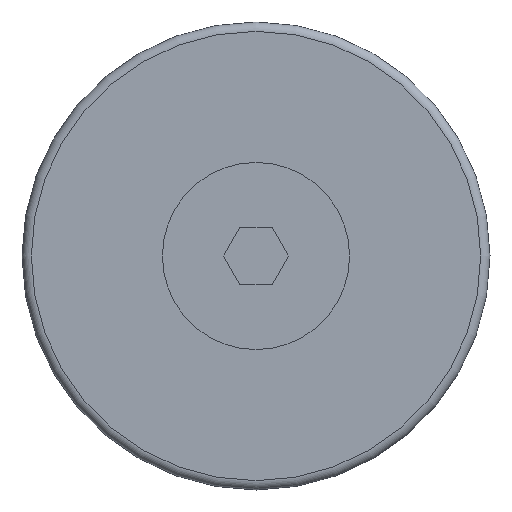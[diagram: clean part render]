
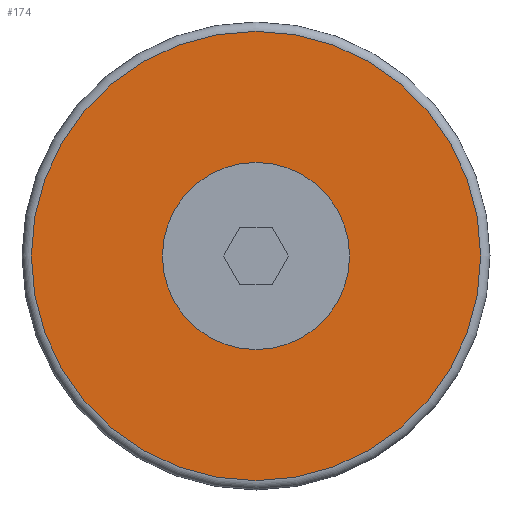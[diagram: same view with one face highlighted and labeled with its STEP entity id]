
A CAD part, front view. The second image highlights one B-rep face of the part: STEP entity #174.
In plain terms, the highlighted planar face has unit normal (0, -1, 0).
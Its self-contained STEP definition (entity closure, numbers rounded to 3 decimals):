
#174=ADVANCED_FACE('',(#233,#234),#235,.F.);
#233=FACE_OUTER_BOUND('',#357,.T.);
#234=FACE_BOUND('',#358,.T.);
#235=PLANE('',#359);
#357=EDGE_LOOP('',(#492));
#358=EDGE_LOOP('',(#493));
#359=AXIS2_PLACEMENT_3D('',#494,#495,#496);
#492=ORIENTED_EDGE('',*,*,#830,.F.);
#493=ORIENTED_EDGE('',*,*,#829,.T.);
#494=CARTESIAN_POINT('',(-5.,-16.0,0.0));
#495=DIRECTION('',(0.0,1.0,0.0));
#496=DIRECTION('',(0.0,0.0,1.0));
#829=EDGE_CURVE('',#934,#934,#935,.T.);
#830=EDGE_CURVE('',#936,#936,#937,.T.);
#934=VERTEX_POINT('',#1102);
#935=CIRCLE('',#1103,5.);
#936=VERTEX_POINT('',#1104);
#937=CIRCLE('',#1105,12.);
#1102=CARTESIAN_POINT('',(0.0,-16.0,5.));
#1103=AXIS2_PLACEMENT_3D('',#1433,#1434,#1435);
#1104=CARTESIAN_POINT('',(0.0,-16.0,12.));
#1105=AXIS2_PLACEMENT_3D('',#1436,#1437,#1438);
#1433=CARTESIAN_POINT('',(0.0,-16.0,0.0));
#1434=DIRECTION('',(0.0,1.0,0.0));
#1435=DIRECTION('',(0.0,0.0,1.0));
#1436=CARTESIAN_POINT('',(0.0,-16.0,0.0));
#1437=DIRECTION('',(0.0,1.0,0.0));
#1438=DIRECTION('',(0.0,0.0,1.0));
